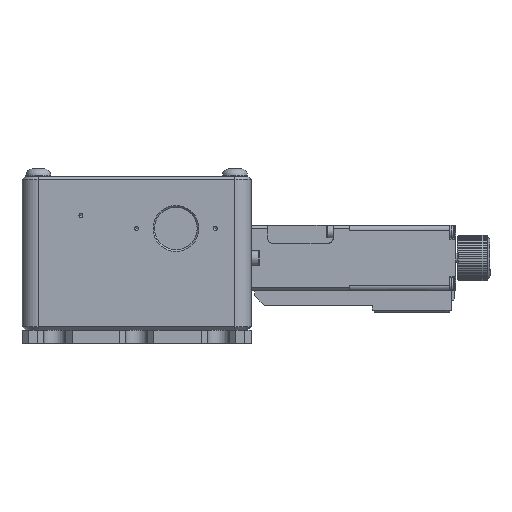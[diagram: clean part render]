
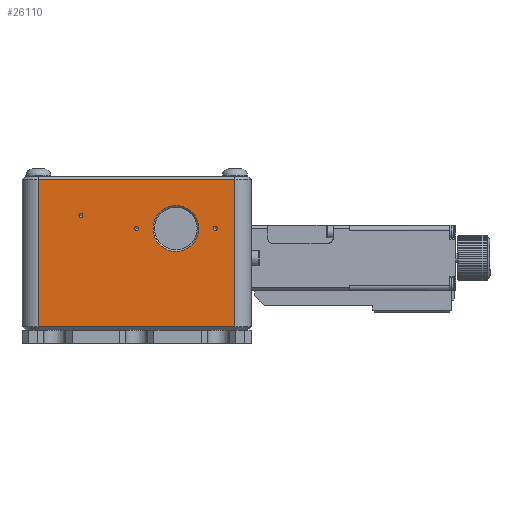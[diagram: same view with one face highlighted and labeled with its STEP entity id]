
A CAD part, left-side view. The second image highlights one B-rep face of the part: STEP entity #26110.
In plain terms, the highlighted planar face has unit normal (-1, 0, 0).
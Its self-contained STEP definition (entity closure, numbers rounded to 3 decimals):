
#1347=LINE($,#38011,#3291);
#1350=LINE($,#38075,#3294);
#1365=LINE($,#38108,#3309);
#1369=LINE($,#38215,#3313);
#3291=VECTOR($,#31012,45.);
#3294=VECTOR($,#31097,45.);
#3309=VECTOR($,#31138,60.);
#3313=VECTOR($,#31188,60.);
#6921=FACE_BOUND($,#7766,.T.);
#6922=FACE_BOUND($,#7767,.T.);
#6923=FACE_BOUND($,#7768,.T.);
#6924=FACE_BOUND($,#7769,.T.);
#6925=FACE_BOUND($,#7770,.T.);
#7766=EDGE_LOOP($,(#17359));
#7767=EDGE_LOOP($,(#17360));
#7768=EDGE_LOOP($,(#17361));
#7769=EDGE_LOOP($,(#17362,#17363,#17364,#17365));
#7770=EDGE_LOOP($,(#17366));
#9679=CIRCLE($,#27948,0.611);
#9680=CIRCLE($,#27949,0.611);
#9681=CIRCLE($,#27950,0.611);
#9682=CIRCLE($,#27951,7.);
#10807=VERTEX_POINT($,#38007);
#10808=VERTEX_POINT($,#38009);
#10826=VERTEX_POINT($,#38071);
#10828=VERTEX_POINT($,#38074);
#10843=VERTEX_POINT($,#38209);
#10844=VERTEX_POINT($,#38211);
#10845=VERTEX_POINT($,#38213);
#10846=VERTEX_POINT($,#38216);
#13309=EDGE_CURVE($,#10808,#10807,#1347,.T.);
#13330=EDGE_CURVE($,#10826,#10828,#1350,.T.);
#13348=EDGE_CURVE($,#10807,#10826,#1365,.T.);
#13361=EDGE_CURVE($,#10843,#10843,#9679,.T.);
#13362=EDGE_CURVE($,#10844,#10844,#9680,.T.);
#13363=EDGE_CURVE($,#10845,#10845,#9681,.T.);
#13364=EDGE_CURVE($,#10828,#10808,#1369,.T.);
#13365=EDGE_CURVE($,#10846,#10846,#9682,.T.);
#17359=ORIENTED_EDGE($,*,*,#13361,.T.);
#17360=ORIENTED_EDGE($,*,*,#13362,.T.);
#17361=ORIENTED_EDGE($,*,*,#13363,.T.);
#17362=ORIENTED_EDGE($,*,*,#13348,.F.);
#17363=ORIENTED_EDGE($,*,*,#13309,.F.);
#17364=ORIENTED_EDGE($,*,*,#13364,.F.);
#17365=ORIENTED_EDGE($,*,*,#13330,.F.);
#17366=ORIENTED_EDGE($,*,*,#13365,.F.);
#23377=PLANE($,#27947);
#26110=ADVANCED_FACE($,(#6921,#6922,#6923,#6924,#6925),#23377,.T.);
#27947=AXIS2_PLACEMENT_3D($,#38208,#31180,#31181);
#27948=AXIS2_PLACEMENT_3D($,#38210,#31182,#31183);
#27949=AXIS2_PLACEMENT_3D($,#38212,#31184,#31185);
#27950=AXIS2_PLACEMENT_3D($,#38214,#31186,#31187);
#27951=AXIS2_PLACEMENT_3D($,#38217,#31189,#31190);
#31012=DIRECTION($,(0.,0.,-1.));
#31097=DIRECTION($,(0.,0.,1.));
#31138=DIRECTION($,(0.,1.,0.));
#31180=DIRECTION('center_axis',(-1.,0.,0.));
#31181=DIRECTION('ref_axis',(0.,-1.,0.));
#31182=DIRECTION('center_axis',(1.,0.,0.));
#31183=DIRECTION('ref_axis',(0.,0.,1.));
#31184=DIRECTION('center_axis',(1.,0.,0.));
#31185=DIRECTION('ref_axis',(0.,0.,1.));
#31186=DIRECTION('center_axis',(1.,0.,0.));
#31187=DIRECTION('ref_axis',(0.,0.,1.));
#31188=DIRECTION($,(0.,-1.,0.));
#31189=DIRECTION('center_axis',(-1.,0.,0.));
#31190=DIRECTION('ref_axis',(0.,0.,-1.));
#38007=CARTESIAN_POINT('',(-63.5,-30.,1.));
#38009=CARTESIAN_POINT('',(-63.5,-30.,46.));
#38011=CARTESIAN_POINT($,(-63.5,-30.,0.));
#38071=CARTESIAN_POINT('',(-63.5,30.,1.));
#38074=CARTESIAN_POINT('',(-63.5,30.,46.));
#38075=CARTESIAN_POINT($,(-63.5,30.,0.));
#38108=CARTESIAN_POINT($,(-63.5,17.5,1.));
#38208=CARTESIAN_POINT('Origin',(-63.5,35.,0.));
#38209=CARTESIAN_POINT('',(-63.5,17.,35.611));
#38210=CARTESIAN_POINT('Origin',(-63.5,17.,35.));
#38211=CARTESIAN_POINT('',(-63.5,0.,31.611));
#38212=CARTESIAN_POINT('Origin',(-63.5,0.,31.));
#38213=CARTESIAN_POINT('',(-63.5,-24.,31.611));
#38214=CARTESIAN_POINT('Origin',(-63.5,-24.,31.));
#38215=CARTESIAN_POINT($,(-63.5,17.5,46.));
#38216=CARTESIAN_POINT('',(-63.5,-12.,38.));
#38217=CARTESIAN_POINT('Origin',(-63.5,-12.,31.));
